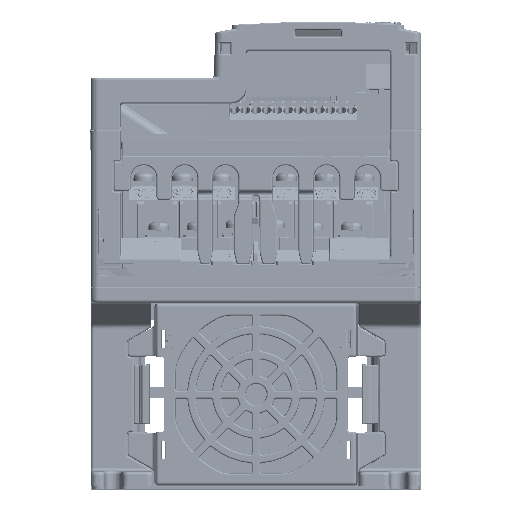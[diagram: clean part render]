
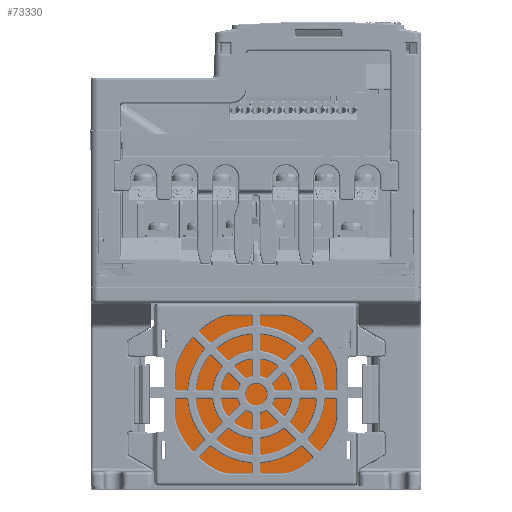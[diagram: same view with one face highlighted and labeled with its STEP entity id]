
A CAD part, top view. The second image highlights one B-rep face of the part: STEP entity #73330.
In plain terms, the highlighted planar face has unit normal (0, 0, 1).
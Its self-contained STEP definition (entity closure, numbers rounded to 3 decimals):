
#63623=CARTESIAN_POINT('',(54.5,31.1,-10.5));
#63624=DIRECTION('',(0.,0.,-1.));
#63625=DIRECTION('',(-1.,0.,0.));
#63626=AXIS2_PLACEMENT_3D('',#63623,#63624,#63625);
#63631=CARTESIAN_POINT('',(54.5,31.1,-10.5));
#63632=DIRECTION('',(0.,0.,-1.));
#63633=DIRECTION('',(1.,0.,0.));
#63634=AXIS2_PLACEMENT_3D('',#63631,#63632,#63633);
#71745=CARTESIAN_POINT('',(83.,31.1,-10.5));
#71746=VERTEX_POINT('',#71745);
#71747=CARTESIAN_POINT('',(26.,31.1,-10.5));
#71748=VERTEX_POINT('',#71747);
#73321=CARTESIAN_POINT('',(54.5,31.1,-10.5));
#73322=DIRECTION('',(0.,0.,1.));
#73323=DIRECTION('',(-1.,0.,0.));
#73324=AXIS2_PLACEMENT_3D('',#73321,#73322,#73323);
#73325=PLANE('',#73324);
#73326=ORIENTED_EDGE('',*,*,#73299,.T.);
#73327=ORIENTED_EDGE('',*,*,#73315,.T.);
#73328=EDGE_LOOP('',(#73326,#73327));
#73329=FACE_OUTER_BOUND('',#73328,.F.);
#63627=CIRCLE('',#63626,28.5);
#63635=CIRCLE('',#63634,28.5);
#73299=EDGE_CURVE('',#71748,#71746,#63627,.T.);
#73315=EDGE_CURVE('',#71746,#71748,#63635,.T.);
#73330=ADVANCED_FACE('',(#73329),#73325,.T.);
